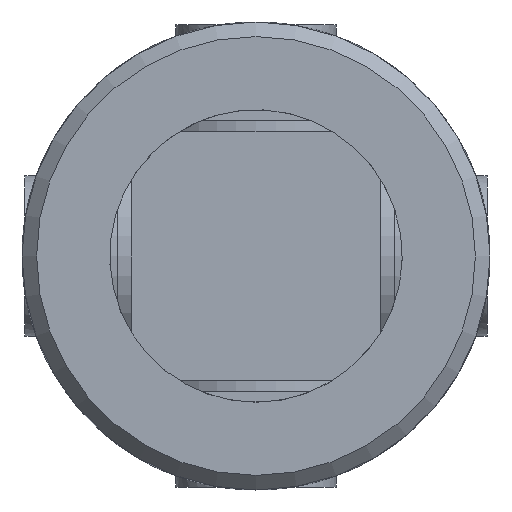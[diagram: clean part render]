
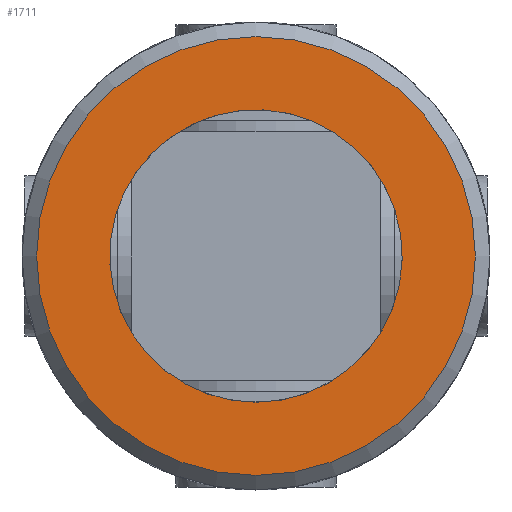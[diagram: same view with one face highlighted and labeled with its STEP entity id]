
A CAD part, front view. The second image highlights one B-rep face of the part: STEP entity #1711.
In plain terms, the highlighted planar face has unit normal (0, -1, 0).
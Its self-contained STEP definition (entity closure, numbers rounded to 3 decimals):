
#216=PLANE('',#1899);
#375=FACE_BOUND('',#611,.T.);
#465=FACE_OUTER_BOUND('',#610,.T.);
#610=EDGE_LOOP('',(#1501));
#611=EDGE_LOOP('',(#1502));
#703=CIRCLE('',#1884,10.);
#711=CIRCLE('',#1897,15.);
#844=VERTEX_POINT('',#3298);
#858=VERTEX_POINT('',#3392);
#1056=EDGE_CURVE('',#844,#844,#703,.T.);
#1075=EDGE_CURVE('',#858,#858,#711,.T.);
#1501=ORIENTED_EDGE('',*,*,#1075,.F.);
#1502=ORIENTED_EDGE('',*,*,#1056,.T.);
#1711=ADVANCED_FACE('',(#465,#375),#216,.F.);
#1884=AXIS2_PLACEMENT_3D('',#3299,#2275,#2276);
#1897=AXIS2_PLACEMENT_3D('',#3393,#2306,#2307);
#1899=AXIS2_PLACEMENT_3D('',#3605,#2314,#2315);
#2275=DIRECTION('center_axis',(0.,1.,0.));
#2276=DIRECTION('ref_axis',(-1.,0.,0.));
#2306=DIRECTION('center_axis',(0.,1.,0.));
#2307=DIRECTION('ref_axis',(1.,0.,0.));
#2314=DIRECTION('center_axis',(0.,1.,0.));
#2315=DIRECTION('ref_axis',(0.,0.,1.));
#3298=CARTESIAN_POINT('',(10.,-51.,0.));
#3299=CARTESIAN_POINT('Origin',(0.,-51.,0.));
#3392=CARTESIAN_POINT('',(-15.,-51.,0.));
#3393=CARTESIAN_POINT('Origin',(0.,-51.,0.));
#3605=CARTESIAN_POINT('Origin',(0.,-51.,0.));
